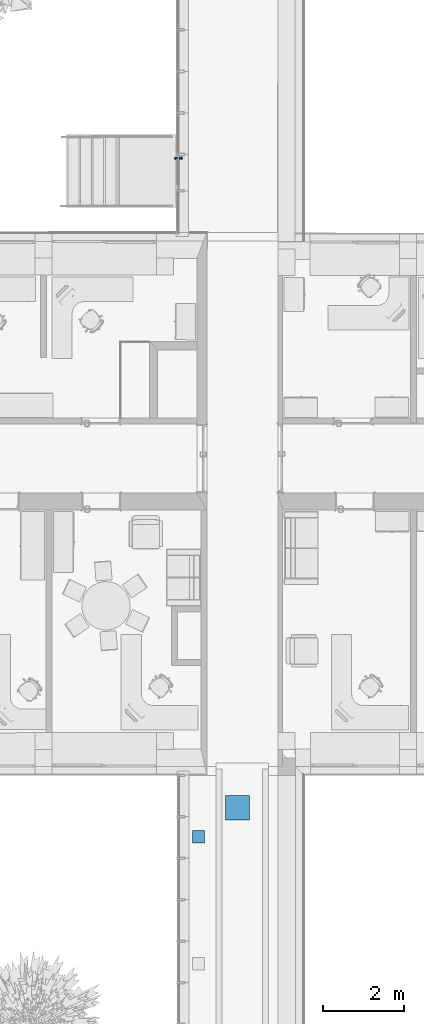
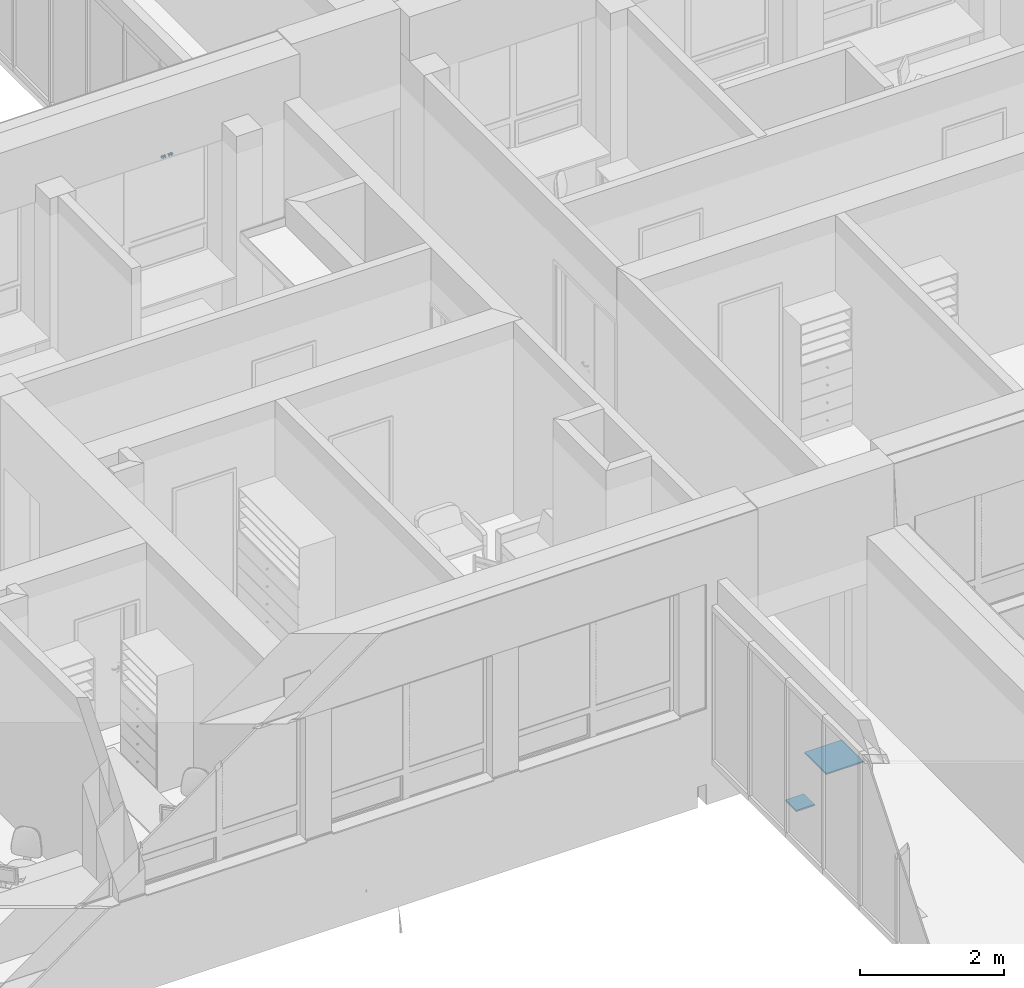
# One storey, part 40 of 194: 2 discrete accessories, 1 building element part, 2 elements without a shape of their own.
"""IFC2X3 building model written with IfcOpenShell, lengths in millimetres."""

from ifc_helpers import new_model, entity, si_unit, converted_unit, derived_unit, money_unit, direction, frame, origin_with_axes, place, context, subcontext, project, spatial, open_shell, faceted_brep, surface_model, source, transform, mapped, type_object, element, aggregate, save


model = new_model("IFC2X3")

# Units and contexts
model_context = context("Model", 3, precision=1e-05, world=origin_with_axes(), true_north=direction((0.0, 1.0)))
body_context = subcontext(model_context, "Body", "Model", "MODEL_VIEW")
ifc_project = project(units=[si_unit("LENGTHUNIT", "METRE", prefix="MILLI"), si_unit("AREAUNIT", "SQUARE_METRE"), si_unit("VOLUMEUNIT", "CUBIC_METRE"), converted_unit("PLANEANGLEUNIT", "DEGREE", entity("IfcPlaneAngleMeasure", 0.0174532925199), si_unit("PLANEANGLEUNIT", "RADIAN"), dimensions=[0, 0, 0, 0, 0, 0, 0]), si_unit("SOLIDANGLEUNIT", "STERADIAN"), money_unit("EUR"), converted_unit("TIMEUNIT", "Year", entity("IfcTimeMeasure", 31556926.0), si_unit("TIMEUNIT", "SECOND"), dimensions=[0, 0, 1, 0, 0, 0, 0]), si_unit("MASSUNIT", "GRAM", prefix="KILO"), si_unit("THERMODYNAMICTEMPERATUREUNIT", "DEGREE_CELSIUS"), si_unit("LUMINOUSINTENSITYUNIT", "LUMEN"), si_unit("ENERGYUNIT", "JOULE", prefix="MEGA"), derived_unit("THERMALCONDUCTANCEUNIT", [(si_unit("POWERUNIT", "WATT"), 1), (si_unit("LENGTHUNIT", "METRE"), -1), (si_unit("THERMODYNAMICTEMPERATUREUNIT", "KELVIN"), -1)]), derived_unit("SPECIFICHEATCAPACITYUNIT", [(si_unit("ENERGYUNIT", "JOULE"), 1), (si_unit("MASSUNIT", "GRAM", prefix="KILO"), -1), (si_unit("THERMODYNAMICTEMPERATUREUNIT", "KELVIN"), -1)]), derived_unit("MASSDENSITYUNIT", [(si_unit("MASSUNIT", "GRAM", prefix="KILO"), 1), (si_unit("VOLUMEUNIT", "CUBIC_METRE"), -1)])], contexts=[model_context])

# Site, building, storey
site_placement = place(None, origin_with_axes())
site = spatial("IfcSite", under=ifc_project, at=site_placement, Name="Site", CompositionType="ELEMENT")
building_placement = place(site_placement, origin_with_axes())
building = spatial("IfcBuilding", under=site, at=building_placement, Name="Building", CompositionType="ELEMENT")
storey_placement = place(building_placement, frame((0.0, 0.0, 3000.0), z_axis=(0.0, 0.0, 1.0), x_axis=(1.0, 0.0, 0.0)))
storey = spatial("IfcBuildingStorey", under=building, at=storey_placement, Name="2 KORRUS", CompositionType="ELEMENT", Elevation=3000.0)

# Curtain wall, door, building element part
curtain_wall_type = type_object("IfcCurtainWallType", Name="KS-1", PredefinedType="NOTDEFINED")
curtain_wall_placement = place(storey_placement, frame((37274.747914, 58173.7882895, -0.000166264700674), z_axis=(0.0, 0.0, 1.0), x_axis=(1.0, 0.0, 0.0)))
curtain_wall = element("IfcCurtainWall", 1, at=curtain_wall_placement, inside=storey, type_object=curtain_wall_type, Name="KS")
door_style = type_object("IfcDoorStyle", Name="Distinct Panel 900 x 30 x 20", ConstructionType="NOTDEFINED", OperationType="NOTDEFINED", ParameterTakesPrecedence=False, Sizeable=False)
door_placement = place(curtain_wall_placement, frame((0.0, -9162.5, 1250.00017528), z_axis=(0.0, 0.0, 1.0), x_axis=(0.0, -1.0, 0.0)))
door = element("IfcDoor", 2, at=door_placement, type_object=door_style, Name="Välisuks * CW Door 22")
aggregate(curtain_wall, [door])
shared_shape_1 = source(origin_with_axes(), body_context, "Body", "SurfaceModel", [
    surface_model("IfcShellBasedSurfaceModel", [(-813.000010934, 1008.0, 85.2132034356), (-805.000010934, 1011.3137085, 85.2132034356), (-805.000010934, 1016.26690269, 87.275238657), (-816.502448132, 1011.5024372, 87.275238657), (-816.313719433, 1000.0, 85.2132034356), (-813.000010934, 992.0, 85.2132034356), (-805.000010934, 988.686291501, 85.2132034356), (-797.000010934, 992.0, 85.2132034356), (-793.686302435, 1000.0, 85.2132034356), (-797.000010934, 1008.0, 85.2132034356), (-793.497573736, 1011.5024372, 87.275238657), (-805.000010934, 1021.22498528, 85.2249852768), (-820.008341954, 1015.00833102, 85.2249852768), (-821.26691362, 1000.0, 87.275238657), (-816.502448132, 988.497562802, 87.275238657), (-805.000010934, 983.733097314, 87.275238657), (-793.497573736, 988.497562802, 87.275238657), (-788.733108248, 1000.0, 87.275238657), (-789.991679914, 1015.00833102, 85.2249852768), (-805.000010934, 1029.75923719, 60.0772711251), (-826.042969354, 1021.04295842, 60.0772711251), (-826.224996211, 1000.0, 85.2249852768), (-820.008341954, 984.99166898, 85.2249852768), (-805.000010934, 978.775014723, 85.2249852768), (-789.991679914, 984.99166898, 85.2249852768), (-783.775025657, 1000.0, 85.2249852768), (-783.957052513, 1021.04295842, 60.0772711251), (-805.000010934, 1015.0, 38.0), (-815.606612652, 1010.60660172, 38.0), (-834.759248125, 1000.0, 60.0772711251), (-826.042969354, 978.957041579, 60.0772711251), (-805.000010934, 970.240762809, 60.0772711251), (-783.957052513, 978.957041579, 60.0772711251), (-775.240773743, 1000.0, 60.0772711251), (-794.393409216, 1010.60660172, 38.0), (-805.000010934, 1015.0, 37.98), (-815.606612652, 1010.60660172, 37.98), (-820.000010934, 1000.0, 38.0), (-815.606612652, 989.393398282, 38.0), (-805.000010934, 985.0, 38.0), (-794.393409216, 989.393398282, 38.0), (-790.000010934, 1000.0, 38.0), (-794.393409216, 1010.60660172, 37.98), (-805.000010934, 1015.0, 30.1), (-815.606612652, 1010.60660172, 30.1), (-820.000010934, 1000.0, 37.98), (-815.606612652, 989.393398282, 37.98), (-805.000010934, 985.0, 37.98), (-794.393409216, 989.393398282, 37.98), (-790.000010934, 1000.0, 37.98), (-794.393409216, 1010.60660172, 30.1), (-805.000010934, 1015.0, 30.0), (-815.606612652, 1010.60660172, 30.0), (-820.000010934, 1000.0, 30.1), (-815.606612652, 989.393398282, 30.1), (-805.000010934, 985.0, 30.1), (-794.393409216, 989.393398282, 30.1), (-790.000010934, 1000.0, 30.1), (-794.393409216, 1010.60660172, 30.0), (-805.000010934, 1015.1, 30.0), (-815.67732333, 1010.6773124, 30.0), (-820.000010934, 1000.0, 30.0), (-815.606612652, 989.393398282, 30.0), (-805.000010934, 985.0, 30.0), (-794.393409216, 989.393398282, 30.0), (-790.000010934, 1000.0, 30.0), (-794.322698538, 1010.6773124, 30.0), (-805.000010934, 1026.9, 30.0), (-824.021183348, 1019.02117241, 30.0), (-820.100010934, 1000.0, 30.0), (-815.67732333, 989.322687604, 30.0), (-805.000010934, 984.9, 30.0), (-794.322698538, 989.322687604, 30.0), (-789.900010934, 1000.0, 30.0), (-785.97883852, 1019.02117241, 30.0), (-805.000010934, 1027.0, 30.0), (-824.091894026, 1019.09188309, 30.0), (-831.900010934, 1000.0, 30.0), (-824.021183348, 980.978827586, 30.0), (-805.000010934, 973.1, 30.0), (-785.97883852, 980.978827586, 30.0), (-778.100010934, 1000.0, 30.0), (-785.908127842, 1019.09188309, 30.0), (-805.000010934, 1027.0, 29.9), (-824.091894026, 1019.09188309, 29.9), (-832.000010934, 1000.0, 30.0), (-824.091894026, 980.908116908, 30.0), (-805.000010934, 973.0, 30.0), (-785.908127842, 980.908116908, 30.0), (-778.000010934, 1000.0, 30.0), (-785.908127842, 1019.09188309, 29.9), (-805.000010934, 1027.0, 20.0), (-824.091894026, 1019.09188309, 20.0), (-832.000010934, 1000.0, 29.9), (-824.091894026, 980.908116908, 29.9), (-805.000010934, 973.0, 29.9), (-785.908127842, 980.908116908, 29.9), (-778.000010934, 1000.0, 29.9), (-785.908127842, 1019.09188309, 20.0), (-832.000010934, 1000.0, 20.0), (-824.091894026, 980.908116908, 20.0), (-805.000010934, 973.0, 20.0), (-785.908127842, 980.908116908, 20.0), (-778.000010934, 1000.0, 20.0)], [open_shell([[[0, 1, 2, 3]], [[1, 0, 4, 5, 6, 7, 8, 9]], [[1, 9, 10, 2]], [[3, 2, 11, 12]], [[4, 0, 3, 13]], [[5, 4, 13, 14]], [[6, 5, 14, 15]], [[7, 6, 15, 16]], [[8, 7, 16, 17]], [[9, 8, 17, 10]], [[2, 10, 18, 11]], [[12, 11, 19, 20]], [[13, 3, 12, 21]], [[14, 13, 21, 22]], [[15, 14, 22, 23]], [[16, 15, 23, 24]], [[17, 16, 24, 25]], [[10, 17, 25, 18]], [[11, 18, 26, 19]], [[20, 19, 27, 28]], [[21, 12, 20, 29]], [[22, 21, 29, 30]], [[23, 22, 30, 31]], [[24, 23, 31, 32]], [[25, 24, 32, 33]], [[18, 25, 33, 26]], [[19, 26, 34, 27]], [[28, 27, 35, 36]], [[29, 20, 28, 37]], [[30, 29, 37, 38]], [[31, 30, 38, 39]], [[32, 31, 39, 40]], [[33, 32, 40, 41]], [[26, 33, 41, 34]], [[27, 34, 42, 35]], [[36, 35, 43, 44]], [[37, 28, 36, 45]], [[38, 37, 45, 46]], [[39, 38, 46, 47]], [[40, 39, 47, 48]], [[41, 40, 48, 49]], [[34, 41, 49, 42]], [[35, 42, 50, 43]], [[44, 43, 51, 52]], [[45, 36, 44, 53]], [[46, 45, 53, 54]], [[47, 46, 54, 55]], [[48, 47, 55, 56]], [[49, 48, 56, 57]], [[42, 49, 57, 50]], [[43, 50, 58, 51]], [[52, 51, 59, 60]], [[53, 44, 52, 61]], [[54, 53, 61, 62]], [[55, 54, 62, 63]], [[56, 55, 63, 64]], [[57, 56, 64, 65]], [[50, 57, 65, 58]], [[51, 58, 66, 59]], [[60, 59, 67, 68]], [[61, 52, 60, 69]], [[62, 61, 69, 70]], [[63, 62, 70, 71]], [[64, 63, 71, 72]], [[65, 64, 72, 73]], [[58, 65, 73, 66]], [[59, 66, 74, 67]], [[68, 67, 75, 76]], [[69, 60, 68, 77]], [[70, 69, 77, 78]], [[71, 70, 78, 79]], [[72, 71, 79, 80]], [[73, 72, 80, 81]], [[66, 73, 81, 74]], [[67, 74, 82, 75]], [[76, 75, 83, 84]], [[77, 68, 76, 85]], [[78, 77, 85, 86]], [[79, 78, 86, 87]], [[80, 79, 87, 88]], [[81, 80, 88, 89]], [[74, 81, 89, 82]], [[75, 82, 90, 83]], [[84, 83, 91, 92]], [[85, 76, 84, 93]], [[86, 85, 93, 94]], [[87, 86, 94, 95]], [[88, 87, 95, 96]], [[89, 88, 96, 97]], [[82, 89, 97, 90]], [[83, 90, 98, 91]], [[93, 84, 92, 99]], [[94, 93, 99, 100]], [[95, 94, 100, 101]], [[96, 95, 101, 102]], [[97, 96, 102, 103]], [[90, 97, 103, 98]]])]),
    faceted_brep([(-797.575389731, 992.575378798, 85.2132034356), (-805.000010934, 989.5, 85.2132034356), (-812.424632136, 992.575378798, 85.2132034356), (-815.500010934, 1000.0, 85.2132034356), (-812.424632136, 1007.4246212, 85.2132034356), (-805.000010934, 1010.5, 85.2132034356), (-797.575389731, 1007.4246212, 85.2132034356), (-794.500010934, 1000.0, 85.2132034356), (-797.575389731, 992.575378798, 86.7132034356), (-805.000010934, 989.5, 86.7132034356), (-812.424632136, 992.575378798, 86.7132034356), (-815.500010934, 1000.0, 86.7132034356), (-812.424632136, 1007.4246212, 86.7132034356), (-805.000010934, 1010.5, 86.7132034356), (-797.575389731, 1007.4246212, 86.7132034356), (-794.500010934, 1000.0, 86.7132034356)], [[[0, 1, 2, 3, 4, 5, 6, 7]], [[1, 0, 8, 9]], [[2, 1, 9, 10]], [[3, 2, 10, 11]], [[4, 3, 11, 12]], [[5, 4, 12, 13]], [[6, 5, 13, 14]], [[7, 6, 14, 15]], [[0, 7, 15, 8]], [[8, 15, 14, 13, 12, 11, 10, 9]]]),
    faceted_brep([(-803.500010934, 990.0, 86.7132034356), (-803.500010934, 992.928932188, 93.7842712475), (-806.500010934, 992.928932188, 93.7842712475), (-806.500010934, 990.0, 86.7132034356), (-803.500010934, 1010.0, 86.7132034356), (-803.500010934, 1007.07106781, 93.7842712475), (-803.500010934, 1000.0, 96.7132034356), (-806.500010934, 1000.0, 96.7132034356), (-806.500010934, 1007.07106781, 93.7842712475), (-806.500010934, 1010.0, 86.7132034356)], [[[0, 1, 2, 3]], [[0, 4, 5, 6, 1]], [[1, 6, 7, 2]], [[3, 2, 7, 8, 9]], [[4, 0, 3, 9]], [[5, 4, 9, 8]], [[6, 5, 8, 7]]]),
    surface_model("IfcShellBasedSurfaceModel", [(-813.000010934, 1008.0, -95.2132034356), (-816.502448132, 1011.5024372, -97.275238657), (-805.000010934, 1016.26690269, -97.275238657), (-805.000010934, 1011.3137085, -95.2132034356), (-816.313719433, 1000.0, -95.2132034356), (-821.26691362, 1000.0, -97.275238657), (-820.008341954, 1015.00833102, -95.2249852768), (-805.000010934, 1021.22498528, -95.2249852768), (-793.497573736, 1011.5024372, -97.275238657), (-797.000010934, 1008.0, -95.2132034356), (-793.686302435, 1000.0, -95.2132034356), (-797.000010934, 992.0, -95.2132034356), (-805.000010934, 988.686291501, -95.2132034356), (-813.000010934, 992.0, -95.2132034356), (-816.502448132, 988.497562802, -97.275238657), (-826.224996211, 1000.0, -95.2249852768), (-826.042969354, 1021.04295842, -70.0772711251), (-805.000010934, 1029.75923719, -70.0772711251), (-789.991679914, 1015.00833102, -95.2249852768), (-788.733108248, 1000.0, -97.275238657), (-793.497573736, 988.497562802, -97.275238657), (-805.000010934, 983.733097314, -97.275238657), (-820.008341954, 984.99166898, -95.2249852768), (-834.759248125, 1000.0, -70.0772711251), (-815.606612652, 1010.60660172, -48.0), (-805.000010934, 1015.0, -48.0), (-783.957052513, 1021.04295842, -70.0772711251), (-783.775025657, 1000.0, -95.2249852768), (-789.991679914, 984.99166898, -95.2249852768), (-805.000010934, 978.775014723, -95.2249852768), (-826.042969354, 978.957041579, -70.0772711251), (-820.000010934, 1000.0, -48.0), (-815.606612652, 1010.60660172, -47.98), (-805.000010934, 1015.0, -47.98), (-794.393409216, 1010.60660172, -48.0), (-775.240773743, 1000.0, -70.0772711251), (-783.957052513, 978.957041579, -70.0772711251), (-805.000010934, 970.240762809, -70.0772711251), (-815.606612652, 989.393398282, -48.0), (-820.000010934, 1000.0, -47.98), (-815.606612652, 1010.60660172, -40.1), (-805.000010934, 1015.0, -40.1), (-794.393409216, 1010.60660172, -47.98), (-790.000010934, 1000.0, -48.0), (-794.393409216, 989.393398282, -48.0), (-805.000010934, 985.0, -48.0), (-815.606612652, 989.393398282, -47.98), (-820.000010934, 1000.0, -40.1), (-815.606612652, 1010.60660172, -40.0), (-805.000010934, 1015.0, -40.0), (-794.393409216, 1010.60660172, -40.1), (-790.000010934, 1000.0, -47.98), (-794.393409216, 989.393398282, -47.98), (-805.000010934, 985.0, -47.98), (-815.606612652, 989.393398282, -40.1), (-820.000010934, 1000.0, -40.0), (-815.67732333, 1010.6773124, -40.0), (-805.000010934, 1015.1, -40.0), (-794.393409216, 1010.60660172, -40.0), (-790.000010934, 1000.0, -40.1), (-794.393409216, 989.393398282, -40.1), (-805.000010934, 985.0, -40.1), (-815.606612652, 989.393398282, -40.0), (-820.100010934, 1000.0, -40.0), (-824.021183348, 1019.02117241, -40.0), (-805.000010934, 1026.9, -40.0), (-794.322698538, 1010.6773124, -40.0), (-790.000010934, 1000.0, -40.0), (-794.393409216, 989.393398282, -40.0), (-805.000010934, 985.0, -40.0), (-815.67732333, 989.322687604, -40.0), (-831.900010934, 1000.0, -40.0), (-824.091894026, 1019.09188309, -40.0), (-805.000010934, 1027.0, -40.0), (-785.97883852, 1019.02117241, -40.0), (-789.900010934, 1000.0, -40.0), (-794.322698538, 989.322687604, -40.0), (-805.000010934, 984.9, -40.0), (-824.021183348, 980.978827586, -40.0), (-832.000010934, 1000.0, -40.0), (-824.091894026, 1019.09188309, -39.9), (-805.000010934, 1027.0, -39.9), (-785.908127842, 1019.09188309, -40.0), (-778.100010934, 1000.0, -40.0), (-785.97883852, 980.978827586, -40.0), (-805.000010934, 973.1, -40.0), (-824.091894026, 980.908116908, -40.0), (-832.000010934, 1000.0, -39.9), (-824.091894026, 1019.09188309, -30.0), (-805.000010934, 1027.0, -30.0), (-785.908127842, 1019.09188309, -39.9), (-778.000010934, 1000.0, -40.0), (-785.908127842, 980.908116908, -40.0), (-805.000010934, 973.0, -40.0), (-824.091894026, 980.908116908, -39.9), (-832.000010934, 1000.0, -30.0), (-785.908127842, 1019.09188309, -30.0), (-778.000010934, 1000.0, -39.9), (-785.908127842, 980.908116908, -39.9), (-805.000010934, 973.0, -39.9), (-824.091894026, 980.908116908, -30.0), (-778.000010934, 1000.0, -30.0), (-785.908127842, 980.908116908, -30.0), (-805.000010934, 973.0, -30.0)], [open_shell([[[0, 1, 2, 3]], [[4, 5, 1, 0]], [[1, 6, 7, 2]], [[3, 2, 8, 9]], [[3, 9, 10, 11, 12, 13, 4, 0]], [[13, 14, 5, 4]], [[5, 15, 6, 1]], [[6, 16, 17, 7]], [[2, 7, 18, 8]], [[9, 8, 19, 10]], [[10, 19, 20, 11]], [[11, 20, 21, 12]], [[12, 21, 14, 13]], [[14, 22, 15, 5]], [[15, 23, 16, 6]], [[16, 24, 25, 17]], [[7, 17, 26, 18]], [[8, 18, 27, 19]], [[19, 27, 28, 20]], [[20, 28, 29, 21]], [[21, 29, 22, 14]], [[22, 30, 23, 15]], [[23, 31, 24, 16]], [[24, 32, 33, 25]], [[17, 25, 34, 26]], [[18, 26, 35, 27]], [[27, 35, 36, 28]], [[28, 36, 37, 29]], [[29, 37, 30, 22]], [[30, 38, 31, 23]], [[31, 39, 32, 24]], [[32, 40, 41, 33]], [[25, 33, 42, 34]], [[26, 34, 43, 35]], [[35, 43, 44, 36]], [[36, 44, 45, 37]], [[37, 45, 38, 30]], [[38, 46, 39, 31]], [[39, 47, 40, 32]], [[40, 48, 49, 41]], [[33, 41, 50, 42]], [[34, 42, 51, 43]], [[43, 51, 52, 44]], [[44, 52, 53, 45]], [[45, 53, 46, 38]], [[46, 54, 47, 39]], [[47, 55, 48, 40]], [[48, 56, 57, 49]], [[41, 49, 58, 50]], [[42, 50, 59, 51]], [[51, 59, 60, 52]], [[52, 60, 61, 53]], [[53, 61, 54, 46]], [[54, 62, 55, 47]], [[55, 63, 56, 48]], [[56, 64, 65, 57]], [[49, 57, 66, 58]], [[50, 58, 67, 59]], [[59, 67, 68, 60]], [[60, 68, 69, 61]], [[61, 69, 62, 54]], [[62, 70, 63, 55]], [[63, 71, 64, 56]], [[64, 72, 73, 65]], [[57, 65, 74, 66]], [[58, 66, 75, 67]], [[67, 75, 76, 68]], [[68, 76, 77, 69]], [[69, 77, 70, 62]], [[70, 78, 71, 63]], [[71, 79, 72, 64]], [[72, 80, 81, 73]], [[65, 73, 82, 74]], [[66, 74, 83, 75]], [[75, 83, 84, 76]], [[76, 84, 85, 77]], [[77, 85, 78, 70]], [[78, 86, 79, 71]], [[79, 87, 80, 72]], [[80, 88, 89, 81]], [[73, 81, 90, 82]], [[74, 82, 91, 83]], [[83, 91, 92, 84]], [[84, 92, 93, 85]], [[85, 93, 86, 78]], [[86, 94, 87, 79]], [[87, 95, 88, 80]], [[81, 89, 96, 90]], [[82, 90, 97, 91]], [[91, 97, 98, 92]], [[92, 98, 99, 93]], [[93, 99, 94, 86]], [[94, 100, 95, 87]], [[90, 96, 101, 97]], [[97, 101, 102, 98]], [[98, 102, 103, 99]], [[99, 103, 100, 94]]])]),
    faceted_brep([(-797.575389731, 992.575378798, -95.2132034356), (-794.500010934, 1000.0, -95.2132034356), (-797.575389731, 1007.4246212, -95.2132034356), (-805.000010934, 1010.5, -95.2132034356), (-812.424632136, 1007.4246212, -95.2132034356), (-815.500010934, 1000.0, -95.2132034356), (-812.424632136, 992.575378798, -95.2132034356), (-805.000010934, 989.5, -95.2132034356), (-797.575389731, 992.575378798, -96.7132034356), (-794.500010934, 1000.0, -96.7132034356), (-797.575389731, 1007.4246212, -96.7132034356), (-805.000010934, 1010.5, -96.7132034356), (-812.424632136, 1007.4246212, -96.7132034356), (-815.500010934, 1000.0, -96.7132034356), (-812.424632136, 992.575378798, -96.7132034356), (-805.000010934, 989.5, -96.7132034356)], [[[0, 1, 2, 3, 4, 5, 6, 7]], [[0, 8, 9, 1]], [[1, 9, 10, 2]], [[2, 10, 11, 3]], [[3, 11, 12, 4]], [[4, 12, 13, 5]], [[5, 13, 14, 6]], [[6, 14, 15, 7]], [[7, 15, 8, 0]], [[8, 15, 14, 13, 12, 11, 10, 9]]]),
    faceted_brep([(-803.500010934, 990.0, -96.7132034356), (-806.500010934, 990.0, -96.7132034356), (-806.500010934, 992.928932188, -103.784271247), (-803.500010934, 992.928932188, -103.784271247), (-803.500010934, 1010.0, -96.7132034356), (-806.500010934, 1010.0, -96.7132034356), (-806.500010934, 1007.07106781, -103.784271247), (-806.500010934, 1000.0, -106.713203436), (-803.500010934, 1000.0, -106.713203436), (-803.500010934, 1007.07106781, -103.784271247)], [[[0, 1, 2, 3]], [[4, 5, 1, 0]], [[1, 5, 6, 7, 2]], [[3, 2, 7, 8]], [[0, 3, 8, 9, 4]], [[9, 6, 5, 4]], [[8, 7, 6, 9]]]),
])
building_element_part_placement = place(door_placement, origin_with_axes())
building_element_part = element("IfcBuildingElementPart", 3, at=building_element_part_placement, context=body_context, shape_type="MappedRepresentation", body=[
    mapped(shared_shape_1, transform((450.000000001, 0.0, -1250.00017528), x_axis=(1.0, 0.0, 0.0), y_axis=(0.0, 0.0, 1.0), z_axis=(0.0, -1.0, 0.0))),
])
aggregate(door, [building_element_part])

# Discrete accessories
discrete_accessory_type = type_object("IfcDiscreteAccessoryType", Name="Cube 22")
shared_shape_2 = source(origin_with_axes(), body_context, "Body", "Brep", [
    faceted_brep([(300.0, 0.0, 0.0), (0.0, 0.0, 0.0), (0.0, 300.0, 0.0), (300.0, 300.0, 0.0), (300.0, 0.0, 24.7936240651), (0.0, 0.0, 24.7936240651), (0.0, 300.0, 24.7936240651), (300.0, 300.0, 24.7936240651)], [[[0, 1, 2, 3]], [[1, 0, 4, 5]], [[2, 1, 5, 6]], [[3, 2, 6, 7]], [[0, 3, 7, 4]], [[5, 4, 7, 6]]]),
])
discrete_accessory_1_placement = place(storey_placement, frame((37927.8736044, 32461.7351313, -24.7936240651), z_axis=(0.0, 0.0, 1.0), x_axis=(0.0, 1.0, 0.0)))
element("IfcDiscreteAccessory", 4, at=discrete_accessory_1_placement, inside=storey, type_object=discrete_accessory_type, Name="FU - 020", context=body_context, shape_type="MappedRepresentation", body=[
    mapped(shared_shape_2, transform((0.0, 0.0, 0.0))),
])
shared_shape_3 = source(origin_with_axes(), body_context, "Body", "Brep", [
    faceted_brep([(600.000000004, 0.0, 0.0), (0.0, 0.0, 0.0), (0.0, 600.0, 0.0), (600.000000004, 600.0, 0.0), (600.000000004, 0.0, 24.7936240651), (0.0, 0.0, 24.7936240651), (0.0, 600.0, 24.7936240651), (600.000000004, 600.0, 24.7936240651)], [[[0, 1, 2, 3]], [[1, 0, 4, 5]], [[2, 1, 5, 6]], [[3, 2, 6, 7]], [[0, 3, 7, 4]], [[5, 4, 7, 6]]]),
])
discrete_accessory_2_placement = place(storey_placement, frame((39038.7028523, 33031.1126777, -24.7936240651), z_axis=(0.0, 0.0, 1.0), x_axis=(0.0, 1.0, 0.0)))
element("IfcDiscreteAccessory", 5, at=discrete_accessory_2_placement, inside=storey, type_object=discrete_accessory_type, Name="FU - 020", context=body_context, shape_type="MappedRepresentation", body=[
    mapped(shared_shape_3, transform((0.0, 0.0, 0.0))),
])

save(model, "model.ifc")
